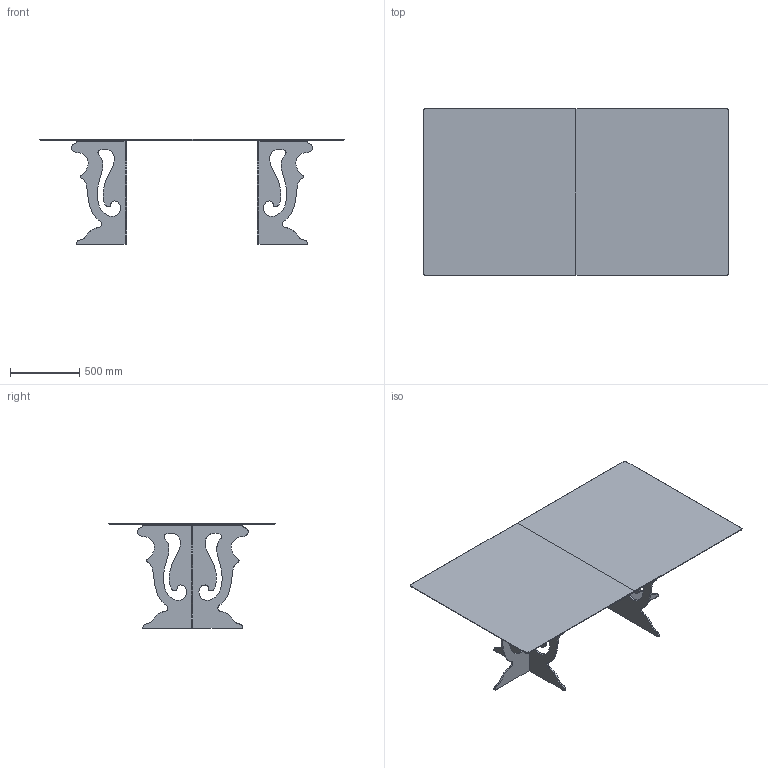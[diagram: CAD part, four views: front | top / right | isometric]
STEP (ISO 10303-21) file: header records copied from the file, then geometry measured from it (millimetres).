
FILE_DESCRIPTION(/* description */ (''),/* implementation_level */ '2;1');
FILE_NAME(/* name */ 'VENICE_table_RET220x120',/* time_stamp */ '2015-09-16T10:49:58+02:00',/* author */ (''),/* organization */ (''),/* preprocessor_version */ 'ST-DEVELOPER v10',/* originating_system */ '',/* authorisation */ '');
FILE_SCHEMA (('CONFIG_CONTROL_DESIGN'));
Length unit declared in the file: millimetre
Products named in the file (1): 1
Bounding box: 2200 x 1200 x 763 mm (x, y, z)
Volume: 44223964.9 mm3; surface area: 7695265 mm2
Topology: 17 solids, 17 shells, 450 faces, 1186 edges, 770 vertices
Faces by surface type: bspline 368, plane 82
Entity records: 15624 total; most frequent: CARTESIAN_POINT 9002, ORIENTED_EDGE 2372, EDGE_CURVE 1186, VERTEX_POINT 770, B_SPLINE_CURVE_WITH_KNOTS 516, EDGE_LOOP 462, ADVANCED_FACE 450, FACE_OUTER_BOUND 450
